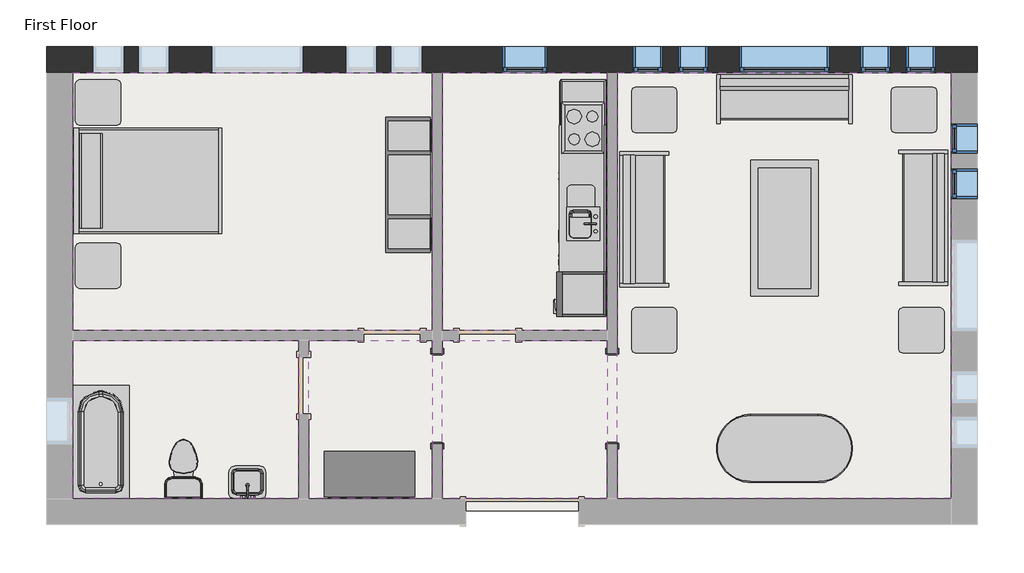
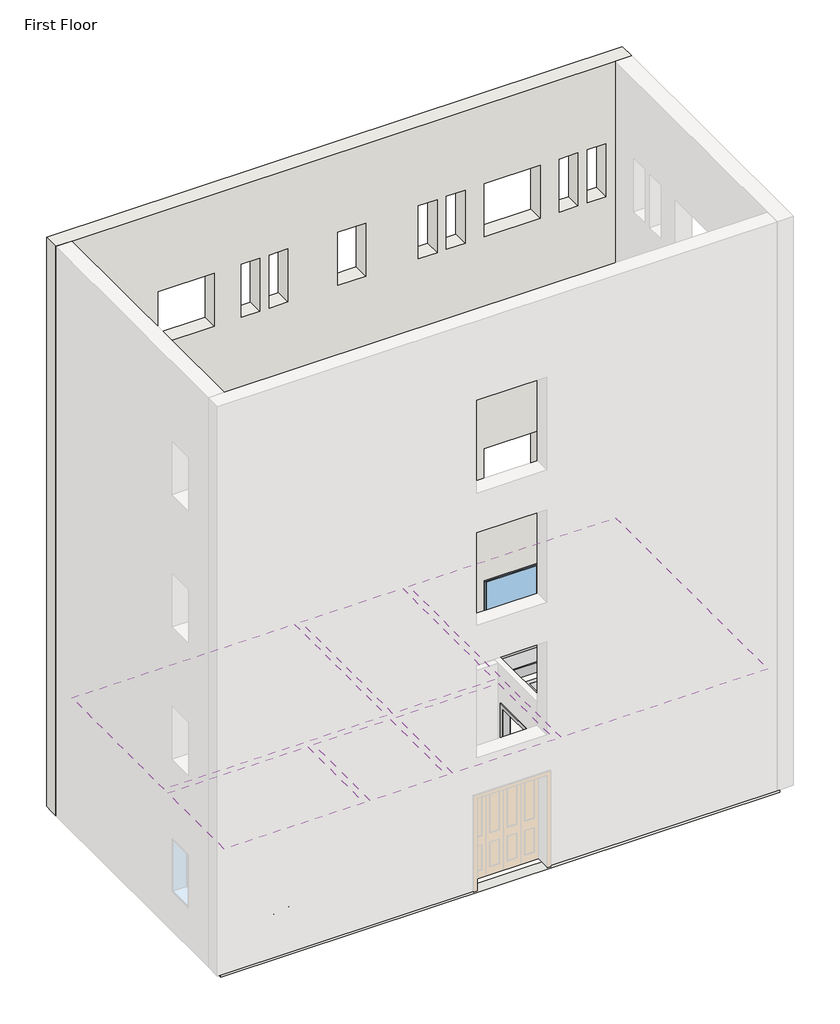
# One storey, part 2 of 2: 15 furniture elements, 8 windows, 6 coverings, 6 proxies, 4 flow terminals, 1 slab, 1 wall.
"""IFC4 building model written with IfcOpenShell, lengths in millimetres."""

from ifc_helpers import new_model, si_unit, frame, origin, place, context, project, spatial, polyline, outline, extrude, faceted_brep, transform, mapped, element, save
from components import m_cook_top_4_unit2_0615_x_500mm_249f3515, m_dishwasher_610_x_610_x_875mm_54ecfc4c, m_kitchenette_medium_2591_ce898a11, m_passage_opening_cased_1220_x_2134mm_87a8d9c2, m_refrigerator_600_x_660mm_a466bf94, m_sink_kitchen_island_450_x_450mm_f969cf2d, m_sink_vanity_square_500_x_440mm_1e229b74, m_toilet_domestic_3d_m_toilet_domestic_3d_5cb52bd4, m_toilet_domestic_3d_m_toilet_domestic_3d_183bbd19, m_tub_rectangular_3d_m_tub_rectangular_3d_3a981ad5, m_bed_shaker_1422_x_1981mm_double_096e7f55, m_counter_top_w_sink_hole_600mm_depth_5db41418, m_dresser_1220_x_1525_x_0610mm_18e1f140, m_entertainment_center_1830_x_1830_x_0610mm_f77a9b93, m_sofa_1830mm_f9e8a66b, m_table_coffee_0915_x_1830_x_0457mm_134cd960, m_table_dining_oval_0915_x_1830mm_a7cfbe21, m_table_end_cb6ea12e, m_fixed_0406_x_1220mm_57fee329, m_fixed_0406_x_1220mm_85c28f40, m_fixed_0610_x_1220mm_2c28ef1d, m_fixed_1220_x_1220mm_e08ff7af

model = new_model("IFC4")

# Units and contexts
model_context = context("Model", 3, world=origin())
ifc_project = project(units=[si_unit("LENGTHUNIT", "METRE", prefix="MILLI")], contexts=[model_context])

# Site, building, storey
site = spatial("IfcSite", under=ifc_project)
building = spatial("IfcBuilding", under=site)
storey = spatial("IfcBuildingStorey", under=building, Name="First Floor", Elevation=0.0)

# Proxies
placement = place(None, origin())
m_cook_top_4_unit2_0615_x_500mm_shape = m_cook_top_4_unit2_0615_x_500mm_249f3515(model_context)
element("IfcBuildingElementProxy", 1, Name="M_Cook Top-4 Unit2 : 0615 x 500mm", ObjectType="M_Cook Top-4 Unit2 : 0615 x 500mm", at=placement, inside=storey, context=model_context, shape_type="MappedRepresentation", body=[
    mapped(m_cook_top_4_unit2_0615_x_500mm_shape, transform((-8054.9916203, 1658.804661, 0.0), x_axis=(0.0, -1.0, 0.0), y_axis=(1.0, 0.0, 0.0), z_axis=(0.0, 0.0, 1.0))),
])
m_dishwasher_610_x_610_x_875mm_shape = m_dishwasher_610_x_610_x_875mm_54ecfc4c(model_context)
element("IfcBuildingElementProxy", 2, Name="M_Dishwasher : 610 x 610 x 875mm", ObjectType="M_Dishwasher : 610 x 610 x 875mm", at=placement, inside=storey, context=model_context, shape_type="MappedRepresentation", body=[
    mapped(m_dishwasher_610_x_610_x_875mm_shape, transform((-8321.6411851, 403.0721295, 0.0), x_axis=(0.0, -1.0, 0.0), y_axis=(1.0, 0.0, 0.0), z_axis=(0.0, 0.0, 1.0))),
])
m_kitchenette_medium_2591_shape = m_kitchenette_medium_2591_ce898a11(model_context)
element("IfcBuildingElementProxy", 3, Name="M_Kitchenette - Medium : 2591", ObjectType="M_Kitchenette - Medium : 2591", at=placement, inside=storey, context=model_context, shape_type="MappedRepresentation", body=[
    mapped(m_kitchenette_medium_2591_shape, transform((-7749.9916203, 1029.7923659, 0.0), x_axis=(0.0, -1.0, 0.0), y_axis=(1.0, 0.0, 0.0), z_axis=(0.0, 0.0, 1.0))),
])
m_passage_opening_cased_1220_x_2134mm_shape = m_passage_opening_cased_1220_x_2134mm_87a8d9c2(model_context)
element("IfcBuildingElementProxy", 4, Name="M_Passage Opening-Cased : 1220 x 2134mm", ObjectType="M_Passage Opening-Cased : 1220 x 2134mm", at=placement, inside=storey, context=model_context, shape_type="MappedRepresentation", body=[
    mapped(m_passage_opening_cased_1220_x_2134mm_shape, transform((-7665.3416203, -1982.6925047, 0.0), x_axis=(0.0, 1.0, 0.0), y_axis=(-1.0, 0.0, 0.0), z_axis=(0.0, 0.0, 1.0))),
])
element("IfcBuildingElementProxy", 5, Name="M_Passage Opening-Cased : 1220 x 2134mm", ObjectType="M_Passage Opening-Cased : 1220 x 2134mm", at=placement, inside=storey, context=model_context, shape_type="MappedRepresentation", body=[
    mapped(m_passage_opening_cased_1220_x_2134mm_shape, transform((-10019.0916203, -1999.0698181, 0.0), x_axis=(0.0, -1.0, 0.0), y_axis=(1.0, 0.0, 0.0), z_axis=(0.0, 0.0, 1.0))),
])
m_refrigerator_600_x_660mm_shape = m_refrigerator_600_x_660mm_a466bf94(model_context)
element("IfcBuildingElementProxy", 6, Name="M_Refrigerator : 600 x 660mm", ObjectType="M_Refrigerator : 600 x 660mm", at=placement, inside=storey, context=model_context, shape_type="MappedRepresentation", body=[
    mapped(m_refrigerator_600_x_660mm_shape, transform((-8046.2067105, -638.2464817, 0.0), x_axis=(0.0, -1.0, 0.0), y_axis=(1.0, 0.0, 0.0), z_axis=(0.0, 0.0, 1.0))),
])

# Coverings
element("IfcCovering", 7, ObjectType="Plain", at=placement, inside=storey, context=model_context, shape_type="SweptSolid", body=[
    extrude(outline(polyline([(-14935.3416203, 2406.1188386), (-10086.8416203, 2406.1188386), (-10086.8416203, -1070.3811614), (-14935.3416203, -1070.3811614), (-14935.3416203, 2406.1188386)])), frame((0.0, 0.0, 2590.0), z_axis=(0.0, 0.0, 1.0), x_axis=(1.0, 0.0, 0.0)), (0.0, 0.0, 1.0), 57.0),
])
element("IfcCovering", 8, ObjectType="Plain", at=placement, inside=storey, context=model_context, shape_type="SweptSolid", body=[
    extrude(outline(polyline([(-9951.3416203, -1070.3811614), (-9951.3416203, 2406.1188386), (-7733.0916203, 2406.1188386), (-7733.0916203, -1070.3811614), (-9951.3416203, -1070.3811614)])), frame((0.0, 0.0, 2590.0), z_axis=(0.0, 0.0, 1.0), x_axis=(1.0, 0.0, 0.0)), (0.0, 0.0, 1.0), 57.0),
])
element("IfcCovering", 9, ObjectType="Plain", at=placement, inside=storey, context=model_context, shape_type="SweptSolid", body=[
    extrude(outline(polyline([(-7597.5916203, -3339.8811614), (-7597.5916203, 2406.1188386), (-3093.3416203, 2406.1188386), (-3093.3416203, -3339.8811614), (-7597.5916203, -3339.8811614)])), frame((0.0, 0.0, 2590.0), z_axis=(0.0, 0.0, 1.0), x_axis=(1.0, 0.0, 0.0)), (0.0, 0.0, 1.0), 57.0),
])
element("IfcCovering", 10, ObjectType="Plain", at=placement, inside=storey, context=model_context, shape_type="SweptSolid", body=[
    extrude(outline(polyline([(-7733.0916203, -3339.8811614), (-9951.3416203, -3339.8811614), (-9951.3416203, -1205.8811614), (-7733.0916203, -1205.8811614), (-7733.0916203, -3339.8811614)])), frame((0.0, 0.0, 2590.0), z_axis=(0.0, 0.0, 1.0), x_axis=(1.0, 0.0, 0.0)), (0.0, 0.0, 1.0), 57.0),
])
element("IfcCovering", 11, ObjectType="Plain", at=placement, inside=storey, context=model_context, shape_type="SweptSolid", body=[
    extrude(outline(polyline([(-11887.3416203, -1205.8811614), (-11887.3416203, -3339.8811614), (-14935.3416203, -3339.8811614), (-14935.3416203, -1205.8811614), (-11887.3416203, -1205.8811614)])), frame((0.0, 0.0, 2590.0), z_axis=(0.0, 0.0, 1.0), x_axis=(1.0, 0.0, 0.0)), (0.0, 0.0, 1.0), 57.0),
])
element("IfcCovering", 12, ObjectType="Plain", at=placement, inside=storey, context=model_context, shape_type="SweptSolid", body=[
    extrude(outline(polyline([(-10086.8416203, -3339.8811614), (-11751.8416203, -3339.8811614), (-11751.8416203, -1205.8811614), (-10086.8416203, -1205.8811614), (-10086.8416203, -3339.8811614)])), frame((0.0, 0.0, 2590.0), z_axis=(0.0, 0.0, 1.0), x_axis=(1.0, 0.0, 0.0)), (0.0, 0.0, 1.0), 57.0),
])

# Flow terminals
m_sink_kitchen_island_450_x_450mm_shape = m_sink_kitchen_island_450_x_450mm_f969cf2d(model_context)
element("IfcFlowTerminal", 13, ObjectType="M_Sink Kitchen-Island : 450 x 450mm", at=placement, inside=storey, context=model_context, shape_type="MappedRepresentation", body=[
    mapped(m_sink_kitchen_island_450_x_450mm_shape, transform((-8057.3370214, 378.9939015, 0.0), x_axis=(0.0, -1.0, 0.0), y_axis=(1.0, 0.0, 0.0), z_axis=(0.0, 0.0, 1.0))),
])
m_sink_vanity_square_500_x_440mm_shape = m_sink_vanity_square_500_x_440mm_1e229b74(model_context)
element("IfcFlowTerminal", 14, ObjectType="M_Sink Vanity-Square : 500 x 440mm", at=placement, inside=storey, context=model_context, shape_type="MappedRepresentation", body=[
    mapped(m_sink_vanity_square_500_x_440mm_shape, transform((-12563.5523798, -3158.1107603, 0.0), x_axis=(-1.0, 0.0, 0.0), y_axis=(0.0, -1.0, 0.0), z_axis=(0.0, 0.0, 1.0))),
])
m_toilet_domestic_3d_m_toilet_domestic_3d_shape = m_toilet_domestic_3d_m_toilet_domestic_3d_5cb52bd4(model_context)
m_toilet_domestic_3d_m_toilet_domestic_3d_2_shape = m_toilet_domestic_3d_m_toilet_domestic_3d_183bbd19(model_context)
element("IfcFlowTerminal", 15, ObjectType="M_Toilet-Domestic-3D : M_Toilet-Domestic-3D", at=placement, inside=storey, context=model_context, shape_type="MappedRepresentation", body=[
    mapped(m_toilet_domestic_3d_m_toilet_domestic_3d_shape, transform((-13440.7376477, -2845.185134, 0.0), x_axis=(-1.0000000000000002, 0.0, 0.0), y_axis=(0.0, -1.0000000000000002, 0.0), z_axis=(0.0, 0.0, 1.0))),
    mapped(m_toilet_domestic_3d_m_toilet_domestic_3d_2_shape, transform((-13440.7376477, -2845.185134, 0.0), x_axis=(-1.0000000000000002, 0.0, 0.0), y_axis=(0.0, -1.0000000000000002, 0.0), z_axis=(0.0, 0.0, 1.0))),
])
m_tub_rectangular_3d_m_tub_rectangular_3d_shape = m_tub_rectangular_3d_m_tub_rectangular_3d_3a981ad5(model_context)
element("IfcFlowTerminal", 16, ObjectType="M_Tub-Rectangular-3D : M_Tub-Rectangular-3D", at=placement, inside=storey, context=model_context, shape_type="MappedRepresentation", body=[
    mapped(m_tub_rectangular_3d_m_tub_rectangular_3d_shape, transform((-15110.3416203, -2229.2781927, 0.0), x_axis=(0.0, 1.0, 0.0), y_axis=(-1.0, 0.0, 0.0), z_axis=(0.0, 0.0, 1.0))),
])

# Furniture
m_bed_shaker_1422_x_1981mm_double_shape = m_bed_shaker_1422_x_1981mm_double_096e7f55(model_context)
element("IfcFurniture", 17, ObjectType="M_Bed-Shaker : 1422 x 1981mm - Double", at=placement, inside=storey, context=model_context, shape_type="MappedRepresentation", body=[
    mapped(m_bed_shaker_1422_x_1981mm_double_shape, transform((-14905.3416203, 963.9688386, 0.0), x_axis=(0.0, 1.0000000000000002, 0.0), y_axis=(-1.0000000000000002, 0.0, 0.0), z_axis=(0.0, 0.0, 1.0))),
])
m_counter_top_w_sink_hole_600mm_depth_shape = m_counter_top_w_sink_hole_600mm_depth_5db41418(model_context)
element("IfcFurniture", 18, ObjectType="M_Counter Top w Sink Hole : 600mm Depth", at=placement, inside=storey, context=model_context, shape_type="MappedRepresentation", body=[
    mapped(m_counter_top_w_sink_hole_600mm_depth_shape, transform((-7749.9916203, 496.5923659, 0.0), x_axis=(0.0, -1.0, 0.0), y_axis=(1.0, 0.0, 0.0), z_axis=(0.0, 0.0, 1.0))),
])
m_dresser_1220_x_1525_x_0610mm_shape = m_dresser_1220_x_1525_x_0610mm_18e1f140(model_context)
element("IfcFurniture", 19, ObjectType="M_Dresser : 1220 x 1525 x 0610mm", at=placement, inside=storey, context=model_context, shape_type="MappedRepresentation", body=[
    mapped(m_dresser_1220_x_1525_x_0610mm_shape, transform((-10667.6483605, -2647.7182073, 0.0), x_axis=(1.0, 0.0, 0.0), y_axis=(0.0, 1.0, 0.0), z_axis=(0.0, 0.0, 1.0))),
])
m_entertainment_center_1830_x_1830_x_0610mm_shape = m_entertainment_center_1830_x_1830_x_0610mm_f77a9b93(model_context)
element("IfcFurniture", 20, ObjectType="M_Entertainment center : 1830 x 1830 x 0610mm", at=placement, inside=storey, context=model_context, shape_type="MappedRepresentation", body=[
    mapped(m_entertainment_center_1830_x_1830_x_0610mm_shape, transform((-10818.2416203, 891.1188386, 0.0), x_axis=(0.0, 1.0, 0.0), y_axis=(-1.0, 0.0, 0.0), z_axis=(0.0, 0.0, 1.0))),
])
m_sofa_1830mm_shape = m_sofa_1830mm_f9e8a66b(model_context)
element("IfcFurniture", 21, ObjectType="M_Sofa : 1830mm", at=placement, inside=storey, context=model_context, shape_type="MappedRepresentation", body=[
    mapped(m_sofa_1830mm_shape, transform((-5413.7121121, 1899.9647403, 0.0), x_axis=(1.0, 0.0, 0.0), y_axis=(0.0, 1.0, 0.0), z_axis=(0.0, 0.0, 1.0))),
])
element("IfcFurniture", 22, ObjectType="M_Sofa : 1830mm", at=placement, inside=storey, context=model_context, shape_type="MappedRepresentation", body=[
    mapped(m_sofa_1830mm_shape, transform((-3617.1736471, 517.2688343, 0.0), x_axis=(0.0, -1.0, 0.0), y_axis=(1.0, 0.0, 0.0), z_axis=(0.0, 0.0, 1.0))),
])
element("IfcFurniture", 23, ObjectType="M_Sofa : 1830mm", at=placement, inside=storey, context=model_context, shape_type="MappedRepresentation", body=[
    mapped(m_sofa_1830mm_shape, transform((-7088.437522, 355.7483468, 0.0), x_axis=(0.0, 1.0, 0.0), y_axis=(-1.0, 0.0, 0.0), z_axis=(0.0, 0.0, 1.0))),
])
m_table_coffee_0915_x_1830_x_0457mm_shape = m_table_coffee_0915_x_1830_x_0457mm_134cd960(model_context)
element("IfcFurniture", 24, ObjectType="M_Table-Coffee : 0915 x 1830 x 0457mm", at=placement, inside=storey, context=model_context, shape_type="MappedRepresentation", body=[
    mapped(m_table_coffee_0915_x_1830_x_0457mm_shape, transform((-5248.1305425, 287.8530719, 0.0), x_axis=(0.0, 1.0, 0.0), y_axis=(-1.0, 0.0, 0.0), z_axis=(0.0, 0.0, 1.0))),
])
m_table_dining_oval_0915_x_1830mm_shape = m_table_dining_oval_0915_x_1830mm_a7cfbe21(model_context)
element("IfcFurniture", 25, ObjectType="M_Table-Dining Oval : 0915 x 1830mm", at=placement, inside=storey, context=model_context, shape_type="MappedRepresentation", body=[
    mapped(m_table_dining_oval_0915_x_1830mm_shape, transform((-4941.5219482, -2305.2828007, 0.0), x_axis=(1.0, 0.0, 0.0), y_axis=(0.0, 1.0, 0.0), z_axis=(0.0, 0.0, 1.0))),
])
m_table_end_shape = m_table_end_cb6ea12e(model_context)
element("IfcFurniture", 26, ObjectType="M_Table-End : 0610 x 0160mm altered height", at=placement, inside=storey, context=model_context, shape_type="MappedRepresentation", body=[
    mapped(m_table_end_shape, transform((-7407.0752506, 1748.7188386, 0.0), x_axis=(1.0, 0.0, 0.0), y_axis=(0.0, 1.0, 0.0), z_axis=(0.0, 0.0, 1.0))),
])
element("IfcFurniture", 27, ObjectType="M_Table-End : 0610 x 0160mm altered height", at=placement, inside=storey, context=model_context, shape_type="MappedRepresentation", body=[
    mapped(m_table_end_shape, transform((-3907.0752506, 1748.7188386, 0.0), x_axis=(1.0, 0.0, 0.0), y_axis=(0.0, 1.0, 0.0), z_axis=(0.0, 0.0, 1.0))),
])
element("IfcFurniture", 28, ObjectType="M_Table-End : 0610 x 0160mm altered height", at=placement, inside=storey, context=model_context, shape_type="MappedRepresentation", body=[
    mapped(m_table_end_shape, transform((-3807.0752506, -1222.7811614, 0.0), x_axis=(1.0, 0.0, 0.0), y_axis=(0.0, 1.0, 0.0), z_axis=(0.0, 0.0, 1.0))),
])
element("IfcFurniture", 29, ObjectType="M_Table-End : 0610 x 0160mm altered height", at=placement, inside=storey, context=model_context, shape_type="MappedRepresentation", body=[
    mapped(m_table_end_shape, transform((-7407.0752506, -1222.7811614, 0.0), x_axis=(1.0, 0.0, 0.0), y_axis=(0.0, 1.0, 0.0), z_axis=(0.0, 0.0, 1.0))),
])
element("IfcFurniture", 30, ObjectType="M_Table-End : 0610 x 0160mm altered height", at=placement, inside=storey, context=model_context, shape_type="MappedRepresentation", body=[
    mapped(m_table_end_shape, transform((-14899.0752506, -351.2811614, 0.0), x_axis=(1.0, 0.0, 0.0), y_axis=(0.0, 1.0, 0.0), z_axis=(0.0, 0.0, 1.0))),
])
element("IfcFurniture", 31, ObjectType="M_Table-End : 0610 x 0160mm altered height", at=placement, inside=storey, context=model_context, shape_type="MappedRepresentation", body=[
    mapped(m_table_end_shape, transform((-14899.0752506, 1848.7188386, 0.0), x_axis=(1.0, 0.0, 0.0), y_axis=(0.0, 1.0, 0.0), z_axis=(0.0, 0.0, 1.0))),
])

# Slab
element("IfcSlab", 32, ObjectType="160mm Concrete With 50mm Metal Deck", at=placement, inside=storey, context=model_context, shape_type="SweptSolid", body=[
    extrude(outline(polyline([(-2928.3416203, 2571.1188386), (-2928.3416203, -3504.8811614), (-15100.3416203, -3504.8811614), (-15100.3416203, 2571.1188386), (-2928.3416203, 2571.1188386)])), frame((0.0, 0.0, -210.0), z_axis=(0.0, 0.0, 1.0), x_axis=(1.0, 0.0, 0.0)), (0.0, 0.0, 1.0), 210.0),
])

# Wall
element("IfcWall", 33, ObjectType="Exterior - Brick on Mtl. Stud", at=placement, inside=storey, context=model_context, shape_type="Brep", body=[
    faceted_brep([(-15285.3416203, 2406.1188386, 0.0), (-15100.3416203, 2406.1188386, 0.0), (-14935.3416203, 2406.1188386, 0.0), (-10086.8416203, 2406.1188386, 0.0), (-9951.3416203, 2406.1188386, 0.0), (-7733.0916203, 2406.1188386, 0.0), (-7597.5916203, 2406.1188386, 0.0), (-3093.3416203, 2406.1188386, 0.0), (-2928.3416203, 2406.1188386, 0.0), (-2743.3416203, 2406.1188386, 0.0), (-2743.3416203, 2406.1188386, 13107.0), (-3093.3416203, 2406.1188386, 13107.0), (-14935.3416203, 2406.1188386, 13107.0), (-15285.3416203, 2406.1188386, 13107.0), (-8537.1916203, 2406.1188386, 915.0), (-9147.1916203, 2406.1188386, 915.0), (-9147.1916203, 2406.1188386, 2135.0), (-8537.1916203, 2406.1188386, 2135.0), (-11833.3416203, 2406.1188386, 915.0), (-13053.3416203, 2406.1188386, 915.0), (-13053.3416203, 2406.1188386, 2135.0), (-11833.3416203, 2406.1188386, 2135.0), (-4735.4666203, 2406.1188386, 915.0), (-5955.4666203, 2406.1188386, 915.0), (-5955.4666203, 2406.1188386, 2135.0), (-4735.4666203, 2406.1188386, 2135.0), (-14247.3416203, 2406.1188386, 915.0), (-14653.3416203, 2406.1188386, 915.0), (-14653.3416203, 2406.1188386, 2135.0), (-14247.3416203, 2406.1188386, 2135.0), (-13637.3416203, 2406.1188386, 915.0), (-14043.3416203, 2406.1188386, 915.0), (-14043.3416203, 2406.1188386, 2135.0), (-13637.3416203, 2406.1188386, 2135.0), (-11249.3416203, 2406.1188386, 915.0), (-11249.3416203, 2406.1188386, 2135.0), (-10843.3416203, 2406.1188386, 2135.0), (-10843.3416203, 2406.1188386, 915.0), (-10639.3416203, 2406.1188386, 915.0), (-10639.3416203, 2406.1188386, 2135.0), (-10233.3416203, 2406.1188386, 2135.0), (-10233.3416203, 2406.1188386, 915.0), (-6370.3416203, 2406.1188386, 915.0), (-6776.3416203, 2406.1188386, 915.0), (-6776.3416203, 2406.1188386, 2135.0), (-6370.3416203, 2406.1188386, 2135.0), (-6980.3416203, 2406.1188386, 915.0), (-7386.3416203, 2406.1188386, 915.0), (-7386.3416203, 2406.1188386, 2135.0), (-6980.3416203, 2406.1188386, 2135.0), (-4320.5916203, 2406.1188386, 915.0), (-4320.5916203, 2406.1188386, 2135.0), (-3914.5916203, 2406.1188386, 2135.0), (-3914.5916203, 2406.1188386, 915.0), (-3710.5916203, 2406.1188386, 915.0), (-3710.5916203, 2406.1188386, 2135.0), (-3304.5916203, 2406.1188386, 2135.0), (-3304.5916203, 2406.1188386, 915.0), (-4320.5916203, 2406.1188386, 10059.0), (-4320.5916203, 2406.1188386, 11279.0), (-3914.5916203, 2406.1188386, 11279.0), (-3914.5916203, 2406.1188386, 10059.0), (-3710.5916203, 2406.1188386, 10059.0), (-3710.5916203, 2406.1188386, 11279.0), (-3304.5916203, 2406.1188386, 11279.0), (-3304.5916203, 2406.1188386, 10059.0), (-6370.3416203, 2406.1188386, 10059.0), (-6776.3416203, 2406.1188386, 10059.0), (-6776.3416203, 2406.1188386, 11279.0), (-6370.3416203, 2406.1188386, 11279.0), (-6980.3416203, 2406.1188386, 10059.0), (-7386.3416203, 2406.1188386, 10059.0), (-7386.3416203, 2406.1188386, 11279.0), (-6980.3416203, 2406.1188386, 11279.0), (-11249.3416203, 2406.1188386, 10059.0), (-11249.3416203, 2406.1188386, 11279.0), (-10843.3416203, 2406.1188386, 11279.0), (-10843.3416203, 2406.1188386, 10059.0), (-10639.3416203, 2406.1188386, 10059.0), (-10639.3416203, 2406.1188386, 11279.0), (-10233.3416203, 2406.1188386, 11279.0), (-10233.3416203, 2406.1188386, 10059.0), (-13637.3416203, 2406.1188386, 10059.0), (-14043.3416203, 2406.1188386, 10059.0), (-14043.3416203, 2406.1188386, 11279.0), (-13637.3416203, 2406.1188386, 11279.0), (-14247.3416203, 2406.1188386, 10059.0), (-14653.3416203, 2406.1188386, 10059.0), (-14653.3416203, 2406.1188386, 11279.0), (-14247.3416203, 2406.1188386, 11279.0), (-4735.4666203, 2406.1188386, 10059.0), (-5955.4666203, 2406.1188386, 10059.0), (-5955.4666203, 2406.1188386, 11279.0), (-4735.4666203, 2406.1188386, 11279.0), (-11833.3416203, 2406.1188386, 10059.0), (-13053.3416203, 2406.1188386, 10059.0), (-13053.3416203, 2406.1188386, 11279.0), (-11833.3416203, 2406.1188386, 11279.0), (-8537.1916203, 2406.1188386, 10059.0), (-9147.1916203, 2406.1188386, 10059.0), (-9147.1916203, 2406.1188386, 11279.0), (-8537.1916203, 2406.1188386, 11279.0), (-4320.5916203, 2406.1188386, 3963.0), (-4320.5916203, 2406.1188386, 5183.0), (-3914.5916203, 2406.1188386, 5183.0), (-3914.5916203, 2406.1188386, 3963.0), (-3710.5916203, 2406.1188386, 3963.0), (-3710.5916203, 2406.1188386, 5183.0), (-3304.5916203, 2406.1188386, 5183.0), (-3304.5916203, 2406.1188386, 3963.0), (-6370.3416203, 2406.1188386, 3963.0), (-6776.3416203, 2406.1188386, 3963.0), (-6776.3416203, 2406.1188386, 5183.0), (-6370.3416203, 2406.1188386, 5183.0), (-6980.3416203, 2406.1188386, 3963.0), (-7386.3416203, 2406.1188386, 3963.0), (-7386.3416203, 2406.1188386, 5183.0), (-6980.3416203, 2406.1188386, 5183.0), (-11249.3416203, 2406.1188386, 3963.0), (-11249.3416203, 2406.1188386, 5183.0), (-10843.3416203, 2406.1188386, 5183.0), (-10843.3416203, 2406.1188386, 3963.0), (-10639.3416203, 2406.1188386, 3963.0), (-10639.3416203, 2406.1188386, 5183.0), (-10233.3416203, 2406.1188386, 5183.0), (-10233.3416203, 2406.1188386, 3963.0), (-13637.3416203, 2406.1188386, 3963.0), (-14043.3416203, 2406.1188386, 3963.0), (-14043.3416203, 2406.1188386, 5183.0), (-13637.3416203, 2406.1188386, 5183.0), (-14247.3416203, 2406.1188386, 3963.0), (-14653.3416203, 2406.1188386, 3963.0), (-14653.3416203, 2406.1188386, 5183.0), (-14247.3416203, 2406.1188386, 5183.0), (-4735.4666203, 2406.1188386, 3963.0), (-5955.4666203, 2406.1188386, 3963.0), (-5955.4666203, 2406.1188386, 5183.0), (-4735.4666203, 2406.1188386, 5183.0), (-11833.3416203, 2406.1188386, 3963.0), (-13053.3416203, 2406.1188386, 3963.0), (-13053.3416203, 2406.1188386, 5183.0), (-11833.3416203, 2406.1188386, 5183.0), (-8537.1916203, 2406.1188386, 3963.0), (-9147.1916203, 2406.1188386, 3963.0), (-9147.1916203, 2406.1188386, 5183.0), (-8537.1916203, 2406.1188386, 5183.0), (-4320.5916203, 2406.1188386, 7011.0), (-4320.5916203, 2406.1188386, 8231.0), (-3914.5916203, 2406.1188386, 8231.0), (-3914.5916203, 2406.1188386, 7011.0), (-3710.5916203, 2406.1188386, 7011.0), (-3710.5916203, 2406.1188386, 8231.0), (-3304.5916203, 2406.1188386, 8231.0), (-3304.5916203, 2406.1188386, 7011.0), (-6370.3416203, 2406.1188386, 7011.0), (-6776.3416203, 2406.1188386, 7011.0), (-6776.3416203, 2406.1188386, 8231.0), (-6370.3416203, 2406.1188386, 8231.0), (-6980.3416203, 2406.1188386, 7011.0), (-7386.3416203, 2406.1188386, 7011.0), (-7386.3416203, 2406.1188386, 8231.0), (-6980.3416203, 2406.1188386, 8231.0), (-11249.3416203, 2406.1188386, 7011.0), (-11249.3416203, 2406.1188386, 8231.0), (-10843.3416203, 2406.1188386, 8231.0), (-10843.3416203, 2406.1188386, 7011.0), (-10639.3416203, 2406.1188386, 7011.0), (-10639.3416203, 2406.1188386, 8231.0), (-10233.3416203, 2406.1188386, 8231.0), (-10233.3416203, 2406.1188386, 7011.0), (-13637.3416203, 2406.1188386, 7011.0), (-14043.3416203, 2406.1188386, 7011.0), (-14043.3416203, 2406.1188386, 8231.0), (-13637.3416203, 2406.1188386, 8231.0), (-14247.3416203, 2406.1188386, 7011.0), (-14653.3416203, 2406.1188386, 7011.0), (-14653.3416203, 2406.1188386, 8231.0), (-14247.3416203, 2406.1188386, 8231.0), (-4735.4666203, 2406.1188386, 7011.0), (-5955.4666203, 2406.1188386, 7011.0), (-5955.4666203, 2406.1188386, 8231.0), (-4735.4666203, 2406.1188386, 8231.0), (-11833.3416203, 2406.1188386, 7011.0), (-13053.3416203, 2406.1188386, 7011.0), (-13053.3416203, 2406.1188386, 8231.0), (-11833.3416203, 2406.1188386, 8231.0), (-8537.1916203, 2406.1188386, 7011.0), (-9147.1916203, 2406.1188386, 7011.0), (-9147.1916203, 2406.1188386, 8231.0), (-8537.1916203, 2406.1188386, 8231.0), (-15285.3416203, 2756.1188386, 0.0), (-15285.3416203, 2756.1188386, 13107.0), (-2743.3416203, 2756.1188386, 13107.0), (-2743.3416203, 2756.1188386, 0.0), (-2928.3416203, 2756.1188386, 0.0), (-15100.3416203, 2756.1188386, 0.0), (-8537.1916203, 2756.1188386, 915.0), (-8537.1916203, 2756.1188386, 2135.0), (-9147.1916203, 2756.1188386, 2135.0), (-9147.1916203, 2756.1188386, 915.0), (-11833.3416203, 2756.1188386, 915.0), (-11833.3416203, 2756.1188386, 2135.0), (-13053.3416203, 2756.1188386, 2135.0), (-13053.3416203, 2756.1188386, 915.0), (-4735.4666203, 2756.1188386, 915.0), (-4735.4666203, 2756.1188386, 2135.0), (-5955.4666203, 2756.1188386, 2135.0), (-5955.4666203, 2756.1188386, 915.0), (-14247.3416203, 2756.1188386, 915.0), (-14247.3416203, 2756.1188386, 2135.0), (-14653.3416203, 2756.1188386, 2135.0), (-14653.3416203, 2756.1188386, 915.0), (-13637.3416203, 2756.1188386, 915.0), (-13637.3416203, 2756.1188386, 2135.0), (-14043.3416203, 2756.1188386, 2135.0), (-14043.3416203, 2756.1188386, 915.0), (-11249.3416203, 2756.1188386, 915.0), (-10843.3416203, 2756.1188386, 915.0), (-10843.3416203, 2756.1188386, 2135.0), (-11249.3416203, 2756.1188386, 2135.0), (-10639.3416203, 2756.1188386, 915.0), (-10233.3416203, 2756.1188386, 915.0), (-10233.3416203, 2756.1188386, 2135.0), (-10639.3416203, 2756.1188386, 2135.0), (-6370.3416203, 2756.1188386, 915.0), (-6370.3416203, 2756.1188386, 2135.0), (-6776.3416203, 2756.1188386, 2135.0), (-6776.3416203, 2756.1188386, 915.0), (-6980.3416203, 2756.1188386, 915.0), (-6980.3416203, 2756.1188386, 2135.0), (-7386.3416203, 2756.1188386, 2135.0), (-7386.3416203, 2756.1188386, 915.0), (-4320.5916203, 2756.1188386, 915.0), (-3914.5916203, 2756.1188386, 915.0), (-3914.5916203, 2756.1188386, 2135.0), (-4320.5916203, 2756.1188386, 2135.0), (-3710.5916203, 2756.1188386, 915.0), (-3304.5916203, 2756.1188386, 915.0), (-3304.5916203, 2756.1188386, 2135.0), (-3710.5916203, 2756.1188386, 2135.0), (-4320.5916203, 2756.1188386, 10059.0), (-3914.5916203, 2756.1188386, 10059.0), (-3914.5916203, 2756.1188386, 11279.0), (-4320.5916203, 2756.1188386, 11279.0), (-3710.5916203, 2756.1188386, 10059.0), (-3304.5916203, 2756.1188386, 10059.0), (-3304.5916203, 2756.1188386, 11279.0), (-3710.5916203, 2756.1188386, 11279.0), (-6370.3416203, 2756.1188386, 10059.0), (-6370.3416203, 2756.1188386, 11279.0), (-6776.3416203, 2756.1188386, 11279.0), (-6776.3416203, 2756.1188386, 10059.0), (-6980.3416203, 2756.1188386, 10059.0), (-6980.3416203, 2756.1188386, 11279.0), (-7386.3416203, 2756.1188386, 11279.0), (-7386.3416203, 2756.1188386, 10059.0), (-11249.3416203, 2756.1188386, 10059.0), (-10843.3416203, 2756.1188386, 10059.0), (-10843.3416203, 2756.1188386, 11279.0), (-11249.3416203, 2756.1188386, 11279.0), (-10639.3416203, 2756.1188386, 10059.0), (-10233.3416203, 2756.1188386, 10059.0), (-10233.3416203, 2756.1188386, 11279.0), (-10639.3416203, 2756.1188386, 11279.0), (-13637.3416203, 2756.1188386, 10059.0), (-13637.3416203, 2756.1188386, 11279.0), (-14043.3416203, 2756.1188386, 11279.0), (-14043.3416203, 2756.1188386, 10059.0), (-14247.3416203, 2756.1188386, 10059.0), (-14247.3416203, 2756.1188386, 11279.0), (-14653.3416203, 2756.1188386, 11279.0), (-14653.3416203, 2756.1188386, 10059.0), (-4735.4666203, 2756.1188386, 10059.0), (-4735.4666203, 2756.1188386, 11279.0), (-5955.4666203, 2756.1188386, 11279.0), (-5955.4666203, 2756.1188386, 10059.0), (-11833.3416203, 2756.1188386, 10059.0), (-11833.3416203, 2756.1188386, 11279.0), (-13053.3416203, 2756.1188386, 11279.0), (-13053.3416203, 2756.1188386, 10059.0), (-8537.1916203, 2756.1188386, 10059.0), (-8537.1916203, 2756.1188386, 11279.0), (-9147.1916203, 2756.1188386, 11279.0), (-9147.1916203, 2756.1188386, 10059.0), (-4320.5916203, 2756.1188386, 3963.0), (-3914.5916203, 2756.1188386, 3963.0), (-3914.5916203, 2756.1188386, 5183.0), (-4320.5916203, 2756.1188386, 5183.0), (-3710.5916203, 2756.1188386, 3963.0), (-3304.5916203, 2756.1188386, 3963.0), (-3304.5916203, 2756.1188386, 5183.0), (-3710.5916203, 2756.1188386, 5183.0), (-6370.3416203, 2756.1188386, 3963.0), (-6370.3416203, 2756.1188386, 5183.0), (-6776.3416203, 2756.1188386, 5183.0), (-6776.3416203, 2756.1188386, 3963.0), (-6980.3416203, 2756.1188386, 3963.0), (-6980.3416203, 2756.1188386, 5183.0), (-7386.3416203, 2756.1188386, 5183.0), (-7386.3416203, 2756.1188386, 3963.0), (-11249.3416203, 2756.1188386, 3963.0), (-10843.3416203, 2756.1188386, 3963.0), (-10843.3416203, 2756.1188386, 5183.0), (-11249.3416203, 2756.1188386, 5183.0), (-10639.3416203, 2756.1188386, 3963.0), (-10233.3416203, 2756.1188386, 3963.0), (-10233.3416203, 2756.1188386, 5183.0), (-10639.3416203, 2756.1188386, 5183.0), (-13637.3416203, 2756.1188386, 3963.0), (-13637.3416203, 2756.1188386, 5183.0), (-14043.3416203, 2756.1188386, 5183.0), (-14043.3416203, 2756.1188386, 3963.0), (-14247.3416203, 2756.1188386, 3963.0), (-14247.3416203, 2756.1188386, 5183.0), (-14653.3416203, 2756.1188386, 5183.0), (-14653.3416203, 2756.1188386, 3963.0), (-4735.4666203, 2756.1188386, 3963.0), (-4735.4666203, 2756.1188386, 5183.0), (-5955.4666203, 2756.1188386, 5183.0), (-5955.4666203, 2756.1188386, 3963.0), (-11833.3416203, 2756.1188386, 3963.0), (-11833.3416203, 2756.1188386, 5183.0), (-13053.3416203, 2756.1188386, 5183.0), (-13053.3416203, 2756.1188386, 3963.0), (-8537.1916203, 2756.1188386, 3963.0), (-8537.1916203, 2756.1188386, 5183.0), (-9147.1916203, 2756.1188386, 5183.0), (-9147.1916203, 2756.1188386, 3963.0), (-4320.5916203, 2756.1188386, 7011.0), (-3914.5916203, 2756.1188386, 7011.0), (-3914.5916203, 2756.1188386, 8231.0), (-4320.5916203, 2756.1188386, 8231.0), (-3710.5916203, 2756.1188386, 7011.0), (-3304.5916203, 2756.1188386, 7011.0), (-3304.5916203, 2756.1188386, 8231.0), (-3710.5916203, 2756.1188386, 8231.0), (-6370.3416203, 2756.1188386, 7011.0), (-6370.3416203, 2756.1188386, 8231.0), (-6776.3416203, 2756.1188386, 8231.0), (-6776.3416203, 2756.1188386, 7011.0), (-6980.3416203, 2756.1188386, 7011.0), (-6980.3416203, 2756.1188386, 8231.0), (-7386.3416203, 2756.1188386, 8231.0), (-7386.3416203, 2756.1188386, 7011.0), (-11249.3416203, 2756.1188386, 7011.0), (-10843.3416203, 2756.1188386, 7011.0), (-10843.3416203, 2756.1188386, 8231.0), (-11249.3416203, 2756.1188386, 8231.0), (-10639.3416203, 2756.1188386, 7011.0), (-10233.3416203, 2756.1188386, 7011.0), (-10233.3416203, 2756.1188386, 8231.0), (-10639.3416203, 2756.1188386, 8231.0), (-13637.3416203, 2756.1188386, 7011.0), (-13637.3416203, 2756.1188386, 8231.0), (-14043.3416203, 2756.1188386, 8231.0), (-14043.3416203, 2756.1188386, 7011.0), (-14247.3416203, 2756.1188386, 7011.0), (-14247.3416203, 2756.1188386, 8231.0), (-14653.3416203, 2756.1188386, 8231.0), (-14653.3416203, 2756.1188386, 7011.0), (-4735.4666203, 2756.1188386, 7011.0), (-4735.4666203, 2756.1188386, 8231.0), (-5955.4666203, 2756.1188386, 8231.0), (-5955.4666203, 2756.1188386, 7011.0), (-11833.3416203, 2756.1188386, 7011.0), (-11833.3416203, 2756.1188386, 8231.0), (-13053.3416203, 2756.1188386, 8231.0), (-13053.3416203, 2756.1188386, 7011.0), (-8537.1916203, 2756.1188386, 7011.0), (-8537.1916203, 2756.1188386, 8231.0), (-9147.1916203, 2756.1188386, 8231.0), (-9147.1916203, 2756.1188386, 7011.0), (-2743.3416203, 2571.1188386, 0.0), (-15285.3416203, 2571.1188386, 0.0), (-15100.3416203, 2571.1188386, 0.0), (-2928.3416203, 2571.1188386, 0.0)], [[[0, 1, 2, 3, 4, 5, 6, 7, 8, 9, 10, 11, 12, 13], [14, 15, 16, 17], [18, 19, 20, 21], [22, 23, 24, 25], [26, 27, 28, 29], [30, 31, 32, 33], [34, 35, 36, 37], [38, 39, 40, 41], [42, 43, 44, 45], [46, 47, 48, 49], [50, 51, 52, 53], [54, 55, 56, 57], [58, 59, 60, 61], [62, 63, 64, 65], [66, 67, 68, 69], [70, 71, 72, 73], [74, 75, 76, 77], [78, 79, 80, 81], [82, 83, 84, 85], [86, 87, 88, 89], [90, 91, 92, 93], [94, 95, 96, 97], [98, 99, 100, 101], [102, 103, 104, 105], [106, 107, 108, 109], [110, 111, 112, 113], [114, 115, 116, 117], [118, 119, 120, 121], [122, 123, 124, 125], [126, 127, 128, 129], [130, 131, 132, 133], [134, 135, 136, 137], [138, 139, 140, 141], [142, 143, 144, 145], [146, 147, 148, 149], [150, 151, 152, 153], [154, 155, 156, 157], [158, 159, 160, 161], [162, 163, 164, 165], [166, 167, 168, 169], [170, 171, 172, 173], [174, 175, 176, 177], [178, 179, 180, 181], [182, 183, 184, 185], [186, 187, 188, 189]], [[190, 191, 192, 193, 194, 195], [196, 197, 198, 199], [200, 201, 202, 203], [204, 205, 206, 207], [208, 209, 210, 211], [212, 213, 214, 215], [216, 217, 218, 219], [220, 221, 222, 223], [224, 225, 226, 227], [228, 229, 230, 231], [232, 233, 234, 235], [236, 237, 238, 239], [240, 241, 242, 243], [244, 245, 246, 247], [248, 249, 250, 251], [252, 253, 254, 255], [256, 257, 258, 259], [260, 261, 262, 263], [264, 265, 266, 267], [268, 269, 270, 271], [272, 273, 274, 275], [276, 277, 278, 279], [280, 281, 282, 283], [284, 285, 286, 287], [288, 289, 290, 291], [292, 293, 294, 295], [296, 297, 298, 299], [300, 301, 302, 303], [304, 305, 306, 307], [308, 309, 310, 311], [312, 313, 314, 315], [316, 317, 318, 319], [320, 321, 322, 323], [324, 325, 326, 327], [328, 329, 330, 331], [332, 333, 334, 335], [336, 337, 338, 339], [340, 341, 342, 343], [344, 345, 346, 347], [348, 349, 350, 351], [352, 353, 354, 355], [356, 357, 358, 359], [360, 361, 362, 363], [364, 365, 366, 367], [368, 369, 370, 371]], [[13, 12, 11, 10, 192, 191]], [[10, 9, 372, 193, 192]], [[0, 13, 191, 190, 373]], [[197, 196, 14, 17]], [[198, 197, 17, 16]], [[199, 198, 16, 15]], [[196, 199, 15, 14]], [[201, 200, 18, 21]], [[202, 201, 21, 20]], [[203, 202, 20, 19]], [[200, 203, 19, 18]], [[205, 204, 22, 25]], [[206, 205, 25, 24]], [[207, 206, 24, 23]], [[204, 207, 23, 22]], [[209, 208, 26, 29]], [[210, 209, 29, 28]], [[211, 210, 28, 27]], [[208, 211, 27, 26]], [[213, 212, 30, 33]], [[214, 213, 33, 32]], [[215, 214, 32, 31]], [[212, 215, 31, 30]], [[35, 34, 216, 219]], [[36, 35, 219, 218]], [[37, 36, 218, 217]], [[34, 37, 217, 216]], [[39, 38, 220, 223]], [[40, 39, 223, 222]], [[41, 40, 222, 221]], [[38, 41, 221, 220]], [[225, 224, 42, 45]], [[226, 225, 45, 44]], [[227, 226, 44, 43]], [[224, 227, 43, 42]], [[229, 228, 46, 49]], [[230, 229, 49, 48]], [[231, 230, 48, 47]], [[228, 231, 47, 46]], [[51, 50, 232, 235]], [[52, 51, 235, 234]], [[53, 52, 234, 233]], [[50, 53, 233, 232]], [[55, 54, 236, 239]], [[56, 55, 239, 238]], [[57, 56, 238, 237]], [[54, 57, 237, 236]], [[1, 0, 373, 374]], [[373, 190, 195, 374]], [[9, 8, 375, 372]], [[195, 194, 375, 374]], [[194, 193, 372, 375]], [[8, 7, 6, 5, 4, 3, 2, 1, 374, 375]], [[59, 58, 240, 243]], [[60, 59, 243, 242]], [[61, 60, 242, 241]], [[58, 61, 241, 240]], [[63, 62, 244, 247]], [[64, 63, 247, 246]], [[65, 64, 246, 245]], [[62, 65, 245, 244]], [[249, 248, 66, 69]], [[250, 249, 69, 68]], [[251, 250, 68, 67]], [[248, 251, 67, 66]], [[253, 252, 70, 73]], [[254, 253, 73, 72]], [[255, 254, 72, 71]], [[252, 255, 71, 70]], [[75, 74, 256, 259]], [[76, 75, 259, 258]], [[77, 76, 258, 257]], [[74, 77, 257, 256]], [[79, 78, 260, 263]], [[80, 79, 263, 262]], [[81, 80, 262, 261]], [[78, 81, 261, 260]], [[265, 264, 82, 85]], [[266, 265, 85, 84]], [[267, 266, 84, 83]], [[264, 267, 83, 82]], [[269, 268, 86, 89]], [[270, 269, 89, 88]], [[271, 270, 88, 87]], [[268, 271, 87, 86]], [[273, 272, 90, 93]], [[274, 273, 93, 92]], [[275, 274, 92, 91]], [[272, 275, 91, 90]], [[277, 276, 94, 97]], [[278, 277, 97, 96]], [[279, 278, 96, 95]], [[276, 279, 95, 94]], [[281, 280, 98, 101]], [[282, 281, 101, 100]], [[283, 282, 100, 99]], [[280, 283, 99, 98]], [[103, 102, 284, 287]], [[104, 103, 287, 286]], [[105, 104, 286, 285]], [[102, 105, 285, 284]], [[107, 106, 288, 291]], [[108, 107, 291, 290]], [[109, 108, 290, 289]], [[106, 109, 289, 288]], [[293, 292, 110, 113]], [[294, 293, 113, 112]], [[295, 294, 112, 111]], [[292, 295, 111, 110]], [[297, 296, 114, 117]], [[298, 297, 117, 116]], [[299, 298, 116, 115]], [[296, 299, 115, 114]], [[119, 118, 300, 303]], [[120, 119, 303, 302]], [[121, 120, 302, 301]], [[118, 121, 301, 300]], [[123, 122, 304, 307]], [[124, 123, 307, 306]], [[125, 124, 306, 305]], [[122, 125, 305, 304]], [[309, 308, 126, 129]], [[310, 309, 129, 128]], [[311, 310, 128, 127]], [[308, 311, 127, 126]], [[313, 312, 130, 133]], [[314, 313, 133, 132]], [[315, 314, 132, 131]], [[312, 315, 131, 130]], [[317, 316, 134, 137]], [[318, 317, 137, 136]], [[319, 318, 136, 135]], [[316, 319, 135, 134]], [[321, 320, 138, 141]], [[322, 321, 141, 140]], [[323, 322, 140, 139]], [[320, 323, 139, 138]], [[325, 324, 142, 145]], [[326, 325, 145, 144]], [[327, 326, 144, 143]], [[324, 327, 143, 142]], [[147, 146, 328, 331]], [[148, 147, 331, 330]], [[149, 148, 330, 329]], [[146, 149, 329, 328]], [[151, 150, 332, 335]], [[152, 151, 335, 334]], [[153, 152, 334, 333]], [[150, 153, 333, 332]], [[337, 336, 154, 157]], [[338, 337, 157, 156]], [[339, 338, 156, 155]], [[336, 339, 155, 154]], [[341, 340, 158, 161]], [[342, 341, 161, 160]], [[343, 342, 160, 159]], [[340, 343, 159, 158]], [[163, 162, 344, 347]], [[164, 163, 347, 346]], [[165, 164, 346, 345]], [[162, 165, 345, 344]], [[167, 166, 348, 351]], [[168, 167, 351, 350]], [[169, 168, 350, 349]], [[166, 169, 349, 348]], [[353, 352, 170, 173]], [[354, 353, 173, 172]], [[355, 354, 172, 171]], [[352, 355, 171, 170]], [[357, 356, 174, 177]], [[358, 357, 177, 176]], [[359, 358, 176, 175]], [[356, 359, 175, 174]], [[361, 360, 178, 181]], [[362, 361, 181, 180]], [[363, 362, 180, 179]], [[360, 363, 179, 178]], [[365, 364, 182, 185]], [[366, 365, 185, 184]], [[367, 366, 184, 183]], [[364, 367, 183, 182]], [[369, 368, 186, 189]], [[370, 369, 189, 188]], [[371, 370, 188, 187]], [[368, 371, 187, 186]]]),
])

# Windows
m_fixed_0406_x_1220mm_shape = m_fixed_0406_x_1220mm_57fee329(model_context)
element("IfcWindow", 34, ObjectType="M_Fixed : 0406 x 1220mm", at=placement, inside=storey, context=model_context, shape_type="MappedRepresentation", body=[
    mapped(m_fixed_0406_x_1220mm_shape, transform((-7183.3416203, 2594.1188386, 0.0), x_axis=(-1.0, 0.0, 0.0), y_axis=(0.0, -1.0, 0.0), z_axis=(0.0, 0.0, 1.0))),
])
element("IfcWindow", 35, ObjectType="M_Fixed : 0406 x 1220mm", at=placement, inside=storey, context=model_context, shape_type="MappedRepresentation", body=[
    mapped(m_fixed_0406_x_1220mm_shape, transform((-6573.3416203, 2594.1188386, 0.0), x_axis=(-1.0, 0.0, 0.0), y_axis=(0.0, -1.0, 0.0), z_axis=(0.0, 0.0, 1.0))),
])
element("IfcWindow", 36, ObjectType="M_Fixed : 0406 x 1220mm", at=placement, inside=storey, context=model_context, shape_type="MappedRepresentation", body=[
    mapped(m_fixed_0406_x_1220mm_shape, transform((-2905.3416203, 1514.1188386, 0.0), x_axis=(0.0, 1.0, 0.0), y_axis=(-1.0, 0.0, 0.0), z_axis=(0.0, 0.0, 1.0))),
])
element("IfcWindow", 37, ObjectType="M_Fixed : 0406 x 1220mm", at=placement, inside=storey, context=model_context, shape_type="MappedRepresentation", body=[
    mapped(m_fixed_0406_x_1220mm_shape, transform((-2905.3416203, 904.1188386, 0.0), x_axis=(0.0, 1.0, 0.0), y_axis=(-1.0, 0.0, 0.0), z_axis=(0.0, 0.0, 1.0))),
])
m_fixed_0406_x_1220mm_2_shape = m_fixed_0406_x_1220mm_85c28f40(model_context)
element("IfcWindow", 38, ObjectType="M_Fixed : 0406 x 1220mm", at=placement, inside=storey, context=model_context, shape_type="MappedRepresentation", body=[
    mapped(m_fixed_0406_x_1220mm_2_shape, transform((-3507.5916203, 2594.1188386, 0.0), x_axis=(1.0, 0.0, 0.0), y_axis=(0.0, 1.0, 0.0), z_axis=(0.0, 0.0, 1.0))),
])
element("IfcWindow", 39, ObjectType="M_Fixed : 0406 x 1220mm", at=placement, inside=storey, context=model_context, shape_type="MappedRepresentation", body=[
    mapped(m_fixed_0406_x_1220mm_2_shape, transform((-4117.5916203, 2594.1188386, 0.0), x_axis=(1.0, 0.0, 0.0), y_axis=(0.0, 1.0, 0.0), z_axis=(0.0, 0.0, 1.0))),
])
m_fixed_0610_x_1220mm_shape = m_fixed_0610_x_1220mm_2c28ef1d(model_context)
element("IfcWindow", 40, ObjectType="M_Fixed : 0610 x 1220mm", at=placement, inside=storey, context=model_context, shape_type="MappedRepresentation", body=[
    mapped(m_fixed_0610_x_1220mm_shape, transform((-8842.1916203, 2594.1188386, 0.0), x_axis=(-1.0, 0.0, 0.0), y_axis=(0.0, -1.0, 0.0), z_axis=(0.0, 0.0, 1.0))),
])
m_fixed_1220_x_1220mm_shape = m_fixed_1220_x_1220mm_e08ff7af(model_context)
element("IfcWindow", 41, ObjectType="M_Fixed : 1220 x 1220mm", at=placement, inside=storey, context=model_context, shape_type="MappedRepresentation", body=[
    mapped(m_fixed_1220_x_1220mm_shape, transform((-5345.4666203, 2594.1188386, 0.0), x_axis=(-1.0, 0.0, 0.0), y_axis=(0.0, -1.0, 0.0), z_axis=(0.0, 0.0, 1.0))),
])

save(model, "model.ifc")
